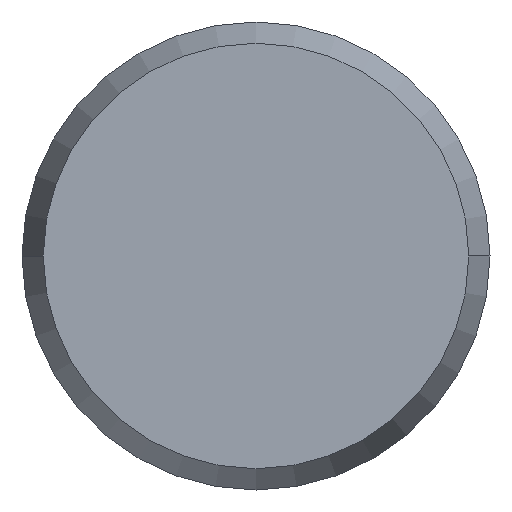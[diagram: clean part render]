
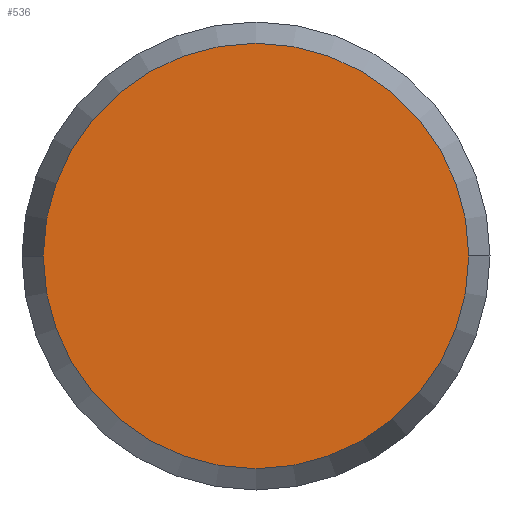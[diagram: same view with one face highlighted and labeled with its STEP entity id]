
A CAD part, front view. The second image highlights one B-rep face of the part: STEP entity #536.
In plain terms, the highlighted planar face has unit normal (0, -1, 0).
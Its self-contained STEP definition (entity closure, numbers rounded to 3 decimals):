
#47 = CARTESIAN_POINT ( 'NONE',  ( 0., 0., 0. ) ) ;
#62 = AXIS2_PLACEMENT_3D ( 'NONE', #1033, #745, #937 ) ;
#64 = DIRECTION ( 'NONE',  ( 0., 1., 0. ) ) ;
#206 = ORIENTED_EDGE ( 'NONE', *, *, #1193, .F. ) ;
#434 = DIRECTION ( 'NONE',  ( -1., 0., 0. ) ) ;
#460 = DIRECTION ( 'NONE',  ( -1., 0., 0. ) ) ;
#536 = ADVANCED_FACE ( 'NONE', ( #595 ), #837, .T. ) ;
#551 = EDGE_LOOP ( 'NONE', ( #206, #823 ) ) ;
#595 = FACE_OUTER_BOUND ( 'NONE', #551, .T. ) ;
#730 = CIRCLE ( 'NONE', #1052, 15. ) ;
#745 = DIRECTION ( 'NONE',  ( 0., -1., 0. ) ) ;
#823 = ORIENTED_EDGE ( 'NONE', *, *, #1148, .F. ) ;
#837 = PLANE ( 'NONE',  #62 ) ;
#887 = CARTESIAN_POINT ( 'NONE',  ( 15., 0., 0. ) ) ;
#893 = VERTEX_POINT ( 'NONE', #900 ) ;
#900 = CARTESIAN_POINT ( 'NONE',  ( -15., 0., 0. ) ) ;
#937 = DIRECTION ( 'NONE',  ( 1., 0., 0. ) ) ;
#1028 = VERTEX_POINT ( 'NONE', #887 ) ;
#1033 = CARTESIAN_POINT ( 'NONE',  ( 0., 0., 0. ) ) ;
#1052 = AXIS2_PLACEMENT_3D ( 'NONE', #1134, #1118, #434 ) ;
#1118 = DIRECTION ( 'NONE',  ( 0., 1., 0. ) ) ;
#1132 = CIRCLE ( 'NONE', #1133, 15. ) ;
#1133 = AXIS2_PLACEMENT_3D ( 'NONE', #47, #64, #460 ) ;
#1134 = CARTESIAN_POINT ( 'NONE',  ( 0., 0., 0. ) ) ;
#1148 = EDGE_CURVE ( 'NONE', #1028, #893, #1132, .T. ) ;
#1193 = EDGE_CURVE ( 'NONE', #893, #1028, #730, .T. ) ;
